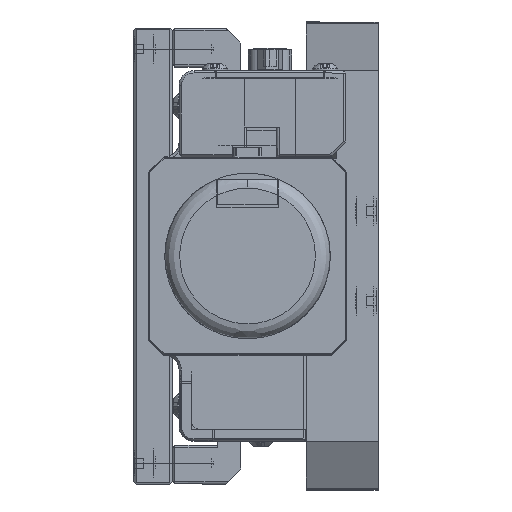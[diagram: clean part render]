
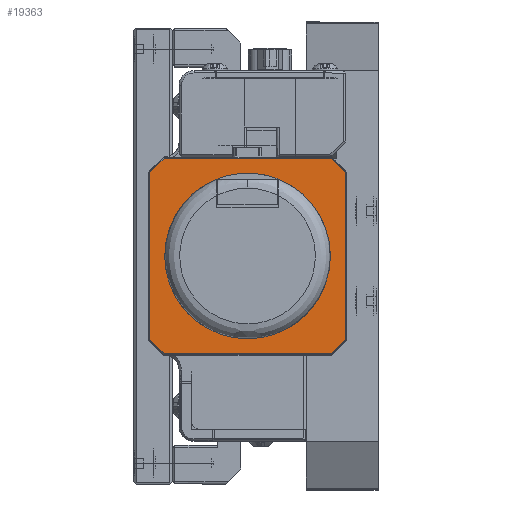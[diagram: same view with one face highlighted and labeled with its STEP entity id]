
A CAD part, left-side view. The second image highlights one B-rep face of the part: STEP entity #19363.
In plain terms, the highlighted planar face has unit normal (-1, 0, 0).
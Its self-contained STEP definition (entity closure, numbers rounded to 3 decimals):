
#1718 = CARTESIAN_POINT ( 'NONE',  ( -120.65, 48.324, 21.568 ) ) ;
#2366 = DIRECTION ( 'NONE',  ( 0., 0.707, -0.707 ) ) ;
#2491 = ORIENTED_EDGE ( 'NONE', *, *, #7482, .F. ) ;
#2885 = CARTESIAN_POINT ( 'NONE',  ( -120.65, -12.52, 41.01 ) ) ;
#3307 = VECTOR ( 'NONE', #77514, 1000. ) ;
#4108 = VERTEX_POINT ( 'NONE', #12691 ) ;
#4789 = EDGE_CURVE ( 'NONE', #85496, #25979, #16408, .T. ) ;
#5373 = EDGE_CURVE ( 'NONE', #50985, #85496, #61230, .T. ) ;
#5980 = DIRECTION ( 'NONE',  ( 0., -0.707, 0.707 ) ) ;
#6013 = EDGE_CURVE ( 'NONE', #91230, #50985, #57537, .T. ) ;
#6255 = VERTEX_POINT ( 'NONE', #96345 ) ;
#6315 = CARTESIAN_POINT ( 'NONE',  ( -120.65, 6.668, 59.944 ) ) ;
#7014 = DIRECTION ( 'NONE',  ( 0., -1., 0. ) ) ;
#7202 = EDGE_CURVE ( 'NONE', #4108, #91230, #54007, .T. ) ;
#7482 = EDGE_CURVE ( 'NONE', #6255, #4108, #78704, .T. ) ;
#7557 = CARTESIAN_POINT ( 'NONE',  ( -120.65, 9.948, 18.542 ) ) ;
#8052 = EDGE_CURVE ( 'NONE', #19165, #6255, #72597, .T. ) ;
#9697 = EDGE_CURVE ( 'NONE', #66613, #19165, #75745, .T. ) ;
#9832 = EDGE_CURVE ( 'NONE', #25979, #66613, #61609, .T. ) ;
#10669 = CARTESIAN_POINT ( 'NONE',  ( -120.65, 6.922, 21.568 ) ) ;
#11679 = CARTESIAN_POINT ( 'NONE',  ( -120.65, 25.855, 79.386 ) ) ;
#11857 = CARTESIAN_POINT ( 'NONE',  ( -120.65, 48.324, 56.918 ) ) ;
#12691 = CARTESIAN_POINT ( 'NONE',  ( -120.65, 6.922, 56.918 ) ) ;
#13968 = VECTOR ( 'NONE', #80782, 1000. ) ;
#14264 = ORIENTED_EDGE ( 'NONE', *, *, #4789, .F. ) ;
#14711 = ORIENTED_EDGE ( 'NONE', *, *, #9697, .F. ) ;
#15969 = VECTOR ( 'NONE', #75278, 1000. ) ;
#16408 = LINE ( 'NONE', #81190, #13968 ) ;
#18148 = EDGE_LOOP ( 'NONE', ( #14264, #20056, #98344, #28516, #2491, #82767, #14711, #78257 ) ) ;
#19165 = VERTEX_POINT ( 'NONE', #65974 ) ;
#19363 = ADVANCED_FACE ( 'NONE', ( #26531 ), #58097, .T. ) ;
#19486 = AXIS2_PLACEMENT_3D ( 'NONE', #57527, #56808, #56793 ) ;
#20056 = ORIENTED_EDGE ( 'NONE', *, *, #5373, .F. ) ;
#23409 = VECTOR ( 'NONE', #40955, 1000. ) ;
#25979 = VERTEX_POINT ( 'NONE', #1718 ) ;
#26531 = FACE_OUTER_BOUND ( 'NONE', #18148, .T. ) ;
#28516 = ORIENTED_EDGE ( 'NONE', *, *, #7202, .F. ) ;
#35129 = VECTOR ( 'NONE', #2366, 1000. ) ;
#36728 = DIRECTION ( 'NONE',  ( 0., 0., -1. ) ) ;
#40547 = CARTESIAN_POINT ( 'NONE',  ( -120.65, 6.922, 60.198 ) ) ;
#40955 = DIRECTION ( 'NONE',  ( 0., 1., 0. ) ) ;
#41051 = CARTESIAN_POINT ( 'NONE',  ( -120.65, 6.668, 18.542 ) ) ;
#50985 = VERTEX_POINT ( 'NONE', #7557 ) ;
#51651 = VECTOR ( 'NONE', #36728, 1000. ) ;
#54007 = LINE ( 'NONE', #40547, #51651 ) ;
#55728 = VECTOR ( 'NONE', #5980, 1000. ) ;
#56793 = DIRECTION ( 'NONE',  ( 0., 0., 1. ) ) ;
#56808 = DIRECTION ( 'NONE',  ( -1., 0., 0. ) ) ;
#57527 = CARTESIAN_POINT ( 'NONE',  ( -120.65, 6.668, 60.198 ) ) ;
#57537 = LINE ( 'NONE', #2885, #35129 ) ;
#58097 = PLANE ( 'NONE',  #19486 ) ;
#61230 = LINE ( 'NONE', #41051, #23409 ) ;
#61609 = LINE ( 'NONE', #77602, #3307 ) ;
#65974 = CARTESIAN_POINT ( 'NONE',  ( -120.65, 45.297, 59.944 ) ) ;
#66613 = VERTEX_POINT ( 'NONE', #11857 ) ;
#72597 = LINE ( 'NONE', #6315, #90468 ) ;
#75278 = DIRECTION ( 'NONE',  ( 0., -0.707, -0.707 ) ) ;
#75745 = LINE ( 'NONE', #11679, #55728 ) ;
#76727 = CARTESIAN_POINT ( 'NONE',  ( -120.65, 8.435, 58.431 ) ) ;
#77514 = DIRECTION ( 'NONE',  ( 0., 0., 1. ) ) ;
#77602 = CARTESIAN_POINT ( 'NONE',  ( -120.65, 48.324, 18.288 ) ) ;
#77732 = CARTESIAN_POINT ( 'NONE',  ( -120.65, 45.297, 18.542 ) ) ;
#78257 = ORIENTED_EDGE ( 'NONE', *, *, #9832, .F. ) ;
#78704 = LINE ( 'NONE', #76727, #15969 ) ;
#80782 = DIRECTION ( 'NONE',  ( 0., 0.707, 0.707 ) ) ;
#81190 = CARTESIAN_POINT ( 'NONE',  ( -120.65, 46.81, 20.055 ) ) ;
#82767 = ORIENTED_EDGE ( 'NONE', *, *, #8052, .F. ) ;
#85496 = VERTEX_POINT ( 'NONE', #77732 ) ;
#90468 = VECTOR ( 'NONE', #7014, 1000. ) ;
#91230 = VERTEX_POINT ( 'NONE', #10669 ) ;
#96345 = CARTESIAN_POINT ( 'NONE',  ( -120.65, 9.948, 59.944 ) ) ;
#98344 = ORIENTED_EDGE ( 'NONE', *, *, #6013, .F. ) ;
